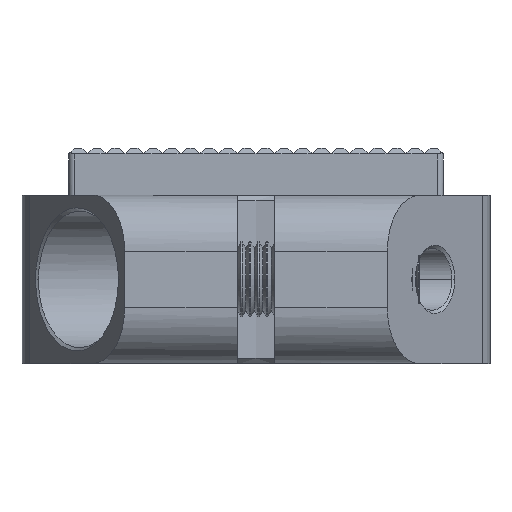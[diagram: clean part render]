
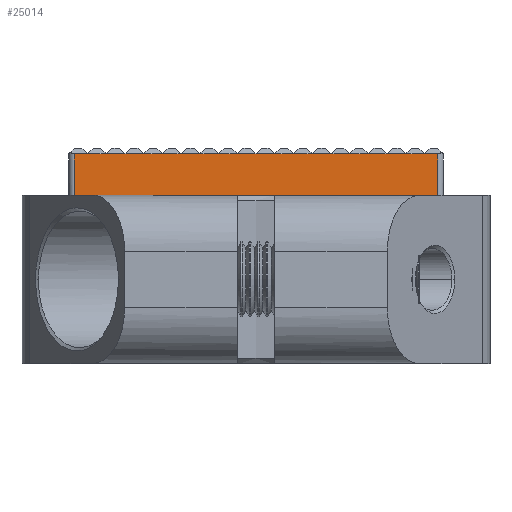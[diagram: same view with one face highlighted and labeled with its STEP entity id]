
A CAD part, left-side view. The second image highlights one B-rep face of the part: STEP entity #25014.
In plain terms, the highlighted planar face has unit normal (-1, 0, 0).
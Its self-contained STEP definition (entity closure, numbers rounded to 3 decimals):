
#15872=PLANE('',#47825);
#16601=LINE('',#58579,#20195);
#19584=LINE('',#64334,#23178);
#19586=LINE('',#64342,#23180);
#19588=LINE('',#64345,#23182);
#19590=LINE('',#64348,#23184);
#19592=LINE('',#64351,#23186);
#19594=LINE('',#64354,#23188);
#19596=LINE('',#64357,#23190);
#19598=LINE('',#64360,#23192);
#19600=LINE('',#64363,#23194);
#19602=LINE('',#64366,#23196);
#19604=LINE('',#64369,#23198);
#19606=LINE('',#64372,#23200);
#19608=LINE('',#64375,#23202);
#19610=LINE('',#64378,#23204);
#19612=LINE('',#64381,#23206);
#19614=LINE('',#64384,#23208);
#19616=LINE('',#64387,#23210);
#19618=LINE('',#64390,#23212);
#19620=LINE('',#64393,#23214);
#19623=LINE('',#64404,#23217);
#19656=LINE('',#64464,#23250);
#19661=LINE('',#64471,#23255);
#20195=VECTOR('',#49450,1.);
#23178=VECTOR('',#54789,1.);
#23180=VECTOR('',#54793,1.);
#23182=VECTOR('',#54797,1.);
#23184=VECTOR('',#54801,1.);
#23186=VECTOR('',#54805,1.);
#23188=VECTOR('',#54809,1.);
#23190=VECTOR('',#54813,1.);
#23192=VECTOR('',#54817,1.);
#23194=VECTOR('',#54821,1.);
#23196=VECTOR('',#54825,1.);
#23198=VECTOR('',#54829,1.);
#23200=VECTOR('',#54833,1.);
#23202=VECTOR('',#54837,1.);
#23204=VECTOR('',#54841,1.);
#23206=VECTOR('',#54845,1.);
#23208=VECTOR('',#54849,1.);
#23210=VECTOR('',#54853,1.);
#23212=VECTOR('',#54857,1.);
#23214=VECTOR('',#54861,1.);
#23217=VECTOR('',#54866,1.);
#23250=VECTOR('',#54933,1.);
#23255=VECTOR('',#54942,1.);
#25014=ADVANCED_FACE('',(#27157),#15872,.T.);
#27157=FACE_OUTER_BOUND('',#29214,.T.);
#29214=EDGE_LOOP('',(#35283,#35284,#35285,#35286,#35287,#35288,#35289,#35290,
#35291,#35292,#35293,#35294,#35295,#35296,#35297,#35298,#35299,#35300,#35301,
#35302,#35303,#35304,#35305));
#35283=ORIENTED_EDGE('',*,*,#44666,.T.);
#35284=ORIENTED_EDGE('',*,*,#41589,.F.);
#35285=ORIENTED_EDGE('',*,*,#44661,.T.);
#35286=ORIENTED_EDGE('',*,*,#44585,.T.);
#35287=ORIENTED_EDGE('',*,*,#44588,.T.);
#35288=ORIENTED_EDGE('',*,*,#44590,.T.);
#35289=ORIENTED_EDGE('',*,*,#44592,.T.);
#35290=ORIENTED_EDGE('',*,*,#44594,.T.);
#35291=ORIENTED_EDGE('',*,*,#44596,.T.);
#35292=ORIENTED_EDGE('',*,*,#44598,.T.);
#35293=ORIENTED_EDGE('',*,*,#44600,.T.);
#35294=ORIENTED_EDGE('',*,*,#44602,.T.);
#35295=ORIENTED_EDGE('',*,*,#44604,.T.);
#35296=ORIENTED_EDGE('',*,*,#44606,.T.);
#35297=ORIENTED_EDGE('',*,*,#44608,.T.);
#35298=ORIENTED_EDGE('',*,*,#44610,.T.);
#35299=ORIENTED_EDGE('',*,*,#44612,.T.);
#35300=ORIENTED_EDGE('',*,*,#44614,.T.);
#35301=ORIENTED_EDGE('',*,*,#44616,.T.);
#35302=ORIENTED_EDGE('',*,*,#44618,.T.);
#35303=ORIENTED_EDGE('',*,*,#44620,.T.);
#35304=ORIENTED_EDGE('',*,*,#44622,.T.);
#35305=ORIENTED_EDGE('',*,*,#44626,.T.);
#39207=VERTEX_POINT('',#58578);
#39208=VERTEX_POINT('',#58580);
#40657=VERTEX_POINT('',#63869);
#40660=VERTEX_POINT('',#63879);
#40663=VERTEX_POINT('',#63889);
#40666=VERTEX_POINT('',#63899);
#40669=VERTEX_POINT('',#63909);
#40672=VERTEX_POINT('',#63919);
#40675=VERTEX_POINT('',#63929);
#40678=VERTEX_POINT('',#63939);
#40681=VERTEX_POINT('',#63949);
#40684=VERTEX_POINT('',#63959);
#40687=VERTEX_POINT('',#63969);
#40690=VERTEX_POINT('',#63979);
#40693=VERTEX_POINT('',#63989);
#40696=VERTEX_POINT('',#63999);
#40699=VERTEX_POINT('',#64009);
#40702=VERTEX_POINT('',#64019);
#40705=VERTEX_POINT('',#64029);
#40708=VERTEX_POINT('',#64039);
#40711=VERTEX_POINT('',#64049);
#40766=VERTEX_POINT('',#64335);
#40769=VERTEX_POINT('',#64403);
#41589=EDGE_CURVE('',#39207,#39208,#16601,.T.);
#44585=EDGE_CURVE('',#40766,#40657,#19584,.T.);
#44588=EDGE_CURVE('',#40657,#40660,#19586,.T.);
#44590=EDGE_CURVE('',#40660,#40663,#19588,.T.);
#44592=EDGE_CURVE('',#40663,#40666,#19590,.T.);
#44594=EDGE_CURVE('',#40666,#40669,#19592,.T.);
#44596=EDGE_CURVE('',#40669,#40672,#19594,.T.);
#44598=EDGE_CURVE('',#40672,#40675,#19596,.T.);
#44600=EDGE_CURVE('',#40675,#40678,#19598,.T.);
#44602=EDGE_CURVE('',#40678,#40681,#19600,.T.);
#44604=EDGE_CURVE('',#40681,#40684,#19602,.T.);
#44606=EDGE_CURVE('',#40684,#40687,#19604,.T.);
#44608=EDGE_CURVE('',#40687,#40690,#19606,.T.);
#44610=EDGE_CURVE('',#40690,#40693,#19608,.T.);
#44612=EDGE_CURVE('',#40693,#40696,#19610,.T.);
#44614=EDGE_CURVE('',#40696,#40699,#19612,.T.);
#44616=EDGE_CURVE('',#40699,#40702,#19614,.T.);
#44618=EDGE_CURVE('',#40702,#40705,#19616,.T.);
#44620=EDGE_CURVE('',#40705,#40708,#19618,.T.);
#44622=EDGE_CURVE('',#40708,#40711,#19620,.T.);
#44626=EDGE_CURVE('',#40711,#40769,#19623,.T.);
#44661=EDGE_CURVE('',#39207,#40766,#19656,.T.);
#44666=EDGE_CURVE('',#40769,#39208,#19661,.T.);
#47825=AXIS2_PLACEMENT_3D('',#64475,#54949,#54950);
#49450=DIRECTION('',(0.,1.,0.));
#54789=DIRECTION('',(0.,1.,0.));
#54793=DIRECTION('',(0.,1.,0.));
#54797=DIRECTION('',(0.,1.,0.));
#54801=DIRECTION('',(0.,1.,0.));
#54805=DIRECTION('',(0.,1.,0.));
#54809=DIRECTION('',(0.,1.,0.));
#54813=DIRECTION('',(0.,1.,0.));
#54817=DIRECTION('',(0.,1.,0.));
#54821=DIRECTION('',(0.,1.,0.));
#54825=DIRECTION('',(0.,1.,0.));
#54829=DIRECTION('',(0.,1.,0.));
#54833=DIRECTION('',(0.,1.,0.));
#54837=DIRECTION('',(0.,1.,0.));
#54841=DIRECTION('',(0.,1.,0.));
#54845=DIRECTION('',(0.,1.,0.));
#54849=DIRECTION('',(0.,1.,0.));
#54853=DIRECTION('',(0.,1.,0.));
#54857=DIRECTION('',(0.,1.,0.));
#54861=DIRECTION('',(0.,1.,0.));
#54866=DIRECTION('',(0.,1.,0.));
#54933=DIRECTION('',(0.,0.,1.));
#54942=DIRECTION('',(0.,0.,-1.));
#54949=DIRECTION('',(-1.,0.,0.));
#54950=DIRECTION('',(0.,0.,-1.));
#58578=CARTESIAN_POINT('',(15.727,50.3,0.475));
#58579=CARTESIAN_POINT('',(15.727,60.,0.475));
#58580=CARTESIAN_POINT('',(15.727,69.7,0.475));
#63869=CARTESIAN_POINT('',(15.727,51.,2.675));
#63879=CARTESIAN_POINT('',(15.727,52.,2.675));
#63889=CARTESIAN_POINT('',(15.727,53.,2.675));
#63899=CARTESIAN_POINT('',(15.727,54.,2.675));
#63909=CARTESIAN_POINT('',(15.727,55.,2.675));
#63919=CARTESIAN_POINT('',(15.727,56.,2.675));
#63929=CARTESIAN_POINT('',(15.727,57.,2.675));
#63939=CARTESIAN_POINT('',(15.727,58.,2.675));
#63949=CARTESIAN_POINT('',(15.727,59.,2.675));
#63959=CARTESIAN_POINT('',(15.727,60.,2.675));
#63969=CARTESIAN_POINT('',(15.727,61.,2.675));
#63979=CARTESIAN_POINT('',(15.727,62.,2.675));
#63989=CARTESIAN_POINT('',(15.727,63.,2.675));
#63999=CARTESIAN_POINT('',(15.727,64.,2.675));
#64009=CARTESIAN_POINT('',(15.727,65.,2.675));
#64019=CARTESIAN_POINT('',(15.727,66.,2.675));
#64029=CARTESIAN_POINT('',(15.727,67.,2.675));
#64039=CARTESIAN_POINT('',(15.727,68.,2.675));
#64049=CARTESIAN_POINT('',(15.727,69.,2.675));
#64334=CARTESIAN_POINT('',(15.727,60.,2.675));
#64335=CARTESIAN_POINT('',(15.727,50.3,2.675));
#64342=CARTESIAN_POINT('',(15.727,60.,2.675));
#64345=CARTESIAN_POINT('',(15.727,60.,2.675));
#64348=CARTESIAN_POINT('',(15.727,60.,2.675));
#64351=CARTESIAN_POINT('',(15.727,60.,2.675));
#64354=CARTESIAN_POINT('',(15.727,60.,2.675));
#64357=CARTESIAN_POINT('',(15.727,60.,2.675));
#64360=CARTESIAN_POINT('',(15.727,60.,2.675));
#64363=CARTESIAN_POINT('',(15.727,60.,2.675));
#64366=CARTESIAN_POINT('',(15.727,60.,2.675));
#64369=CARTESIAN_POINT('',(15.727,60.,2.675));
#64372=CARTESIAN_POINT('',(15.727,60.,2.675));
#64375=CARTESIAN_POINT('',(15.727,60.,2.675));
#64378=CARTESIAN_POINT('',(15.727,60.,2.675));
#64381=CARTESIAN_POINT('',(15.727,60.,2.675));
#64384=CARTESIAN_POINT('',(15.727,60.,2.675));
#64387=CARTESIAN_POINT('',(15.727,60.,2.675));
#64390=CARTESIAN_POINT('',(15.727,60.,2.675));
#64393=CARTESIAN_POINT('',(15.727,60.,2.675));
#64403=CARTESIAN_POINT('',(15.727,69.7,2.675));
#64404=CARTESIAN_POINT('',(15.727,60.,2.675));
#64464=CARTESIAN_POINT('',(15.727,50.3,1.675));
#64471=CARTESIAN_POINT('',(15.727,69.7,1.675));
#64475=CARTESIAN_POINT('',(15.727,69.7,2.675));
